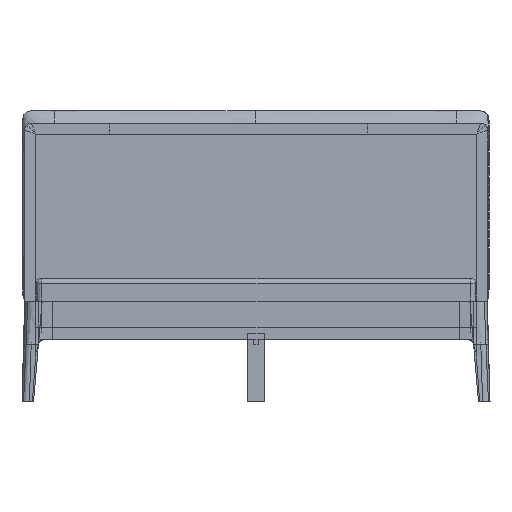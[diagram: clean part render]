
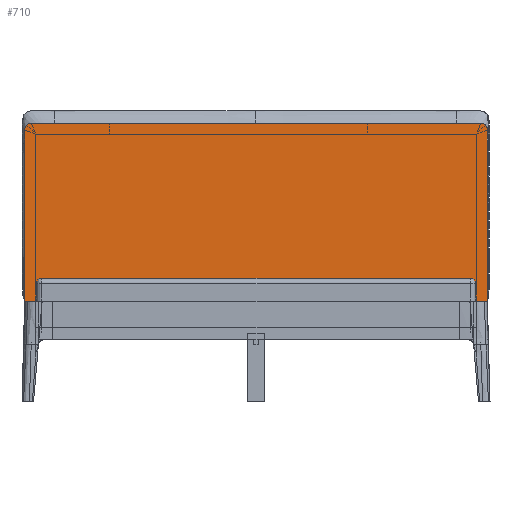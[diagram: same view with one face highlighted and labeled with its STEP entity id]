
A CAD part, front view. The second image highlights one B-rep face of the part: STEP entity #710.
In plain terms, the highlighted planar face has unit normal (0, -1, 0).
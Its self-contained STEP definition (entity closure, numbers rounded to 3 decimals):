
#710=ADVANCED_FACE('',(#1532),#11450,.T.);
#1532=FACE_OUTER_BOUND('',#2357,.T.);
#2357=EDGE_LOOP('',(#4274,#4275,#4276,#4277,#4278,#4279));
#4274=ORIENTED_EDGE('',*,*,#7152,.T.);
#4275=ORIENTED_EDGE('',*,*,#7148,.T.);
#4276=ORIENTED_EDGE('',*,*,#7188,.T.);
#4277=ORIENTED_EDGE('',*,*,#7173,.T.);
#4278=ORIENTED_EDGE('',*,*,#7176,.T.);
#4279=ORIENTED_EDGE('',*,*,#7192,.T.);
#7148=EDGE_CURVE('',#10481,#10480,#8397,.T.);
#7152=EDGE_CURVE('',#10482,#10481,#8401,.T.);
#7173=EDGE_CURVE('',#10494,#10496,#8413,.T.);
#7176=EDGE_CURVE('',#10496,#10497,#8416,.T.);
#7188=EDGE_CURVE('',#10480,#10494,#9056,.T.);
#7192=EDGE_CURVE('',#10497,#10482,#9060,.T.);
#8397=(
BOUNDED_CURVE()
B_SPLINE_CURVE(2,(#104308,#104309,#104310),.UNSPECIFIED.,.F.,.F.)
B_SPLINE_CURVE_WITH_KNOTS((3,3),(-12612.08,-11987.08),
 .UNSPECIFIED.)
CURVE()
GEOMETRIC_REPRESENTATION_ITEM()
RATIONAL_B_SPLINE_CURVE((1.,1.,1.))
REPRESENTATION_ITEM('')
);
#8401=(
BOUNDED_CURVE()
B_SPLINE_CURVE(2,(#104318,#104319,#104320),.UNSPECIFIED.,.F.,.F.)
B_SPLINE_CURVE_WITH_KNOTS((3,3),(-7600.81,-7561.54),
 .UNSPECIFIED.)
CURVE()
GEOMETRIC_REPRESENTATION_ITEM()
RATIONAL_B_SPLINE_CURVE((1.,0.707,1.))
REPRESENTATION_ITEM('')
);
#8413=(
BOUNDED_CURVE()
B_SPLINE_CURVE(2,(#104472,#104473,#104474),.UNSPECIFIED.,.F.,.F.)
B_SPLINE_CURVE_WITH_KNOTS((3,3),(-10101.08,-9476.08),
 .UNSPECIFIED.)
CURVE()
GEOMETRIC_REPRESENTATION_ITEM()
RATIONAL_B_SPLINE_CURVE((1.,1.,1.))
REPRESENTATION_ITEM('')
);
#8416=(
BOUNDED_CURVE()
B_SPLINE_CURVE(2,(#104480,#104481,#104482),.UNSPECIFIED.,.F.,.F.)
B_SPLINE_CURVE_WITH_KNOTS((3,3),(-9476.08,-9436.81),
 .UNSPECIFIED.)
CURVE()
GEOMETRIC_REPRESENTATION_ITEM()
RATIONAL_B_SPLINE_CURVE((1.,0.707,1.))
REPRESENTATION_ITEM('')
);
#9056=B_SPLINE_CURVE_WITH_KNOTS('',1,(#104523,#104524),.UNSPECIFIED.,.F.,
 .F.,(2,2),(0.,1686.),.UNSPECIFIED.);
#9060=B_SPLINE_CURVE_WITH_KNOTS('',1,(#104531,#104532),.UNSPECIFIED.,.F.,
 .F.,(2,2),(0.,1636.),.UNSPECIFIED.);
#10480=VERTEX_POINT('',#104243);
#10481=VERTEX_POINT('',#104244);
#10482=VERTEX_POINT('',#104245);
#10494=VERTEX_POINT('',#104257);
#10496=VERTEX_POINT('',#104259);
#10497=VERTEX_POINT('',#104260);
#11450=PLANE('',#12052);
#12052=AXIS2_PLACEMENT_3D('',#104224,#12599,$);
#12599=DIRECTION('',(0.,-1.,0.));
#104224=CARTESIAN_POINT('',(886.512,-1499.266,1080.));
#104243=CARTESIAN_POINT('',(-843.,-1499.266,365.));
#104244=CARTESIAN_POINT('',(-843.,-1499.266,990.));
#104245=CARTESIAN_POINT('',(-818.,-1499.266,1015.));
#104257=CARTESIAN_POINT('',(843.,-1499.266,365.));
#104259=CARTESIAN_POINT('',(843.,-1499.266,990.));
#104260=CARTESIAN_POINT('',(818.,-1499.266,1015.));
#104308=CARTESIAN_POINT('',(-843.,-1499.266,990.));
#104309=CARTESIAN_POINT('',(-843.,-1499.266,677.5));
#104310=CARTESIAN_POINT('',(-843.,-1499.266,365.));
#104318=CARTESIAN_POINT('',(-818.,-1499.266,1015.));
#104319=CARTESIAN_POINT('',(-843.,-1499.266,1015.));
#104320=CARTESIAN_POINT('',(-843.,-1499.266,990.));
#104472=CARTESIAN_POINT('',(843.,-1499.266,365.));
#104473=CARTESIAN_POINT('',(843.,-1499.266,677.5));
#104474=CARTESIAN_POINT('',(843.,-1499.266,990.));
#104480=CARTESIAN_POINT('',(843.,-1499.266,990.));
#104481=CARTESIAN_POINT('',(843.,-1499.266,1015.));
#104482=CARTESIAN_POINT('',(818.,-1499.266,1015.));
#104523=CARTESIAN_POINT('',(-843.,-1499.266,365.));
#104524=CARTESIAN_POINT('',(843.,-1499.266,365.));
#104531=CARTESIAN_POINT('',(818.,-1499.266,1015.));
#104532=CARTESIAN_POINT('',(-818.,-1499.266,1015.));
